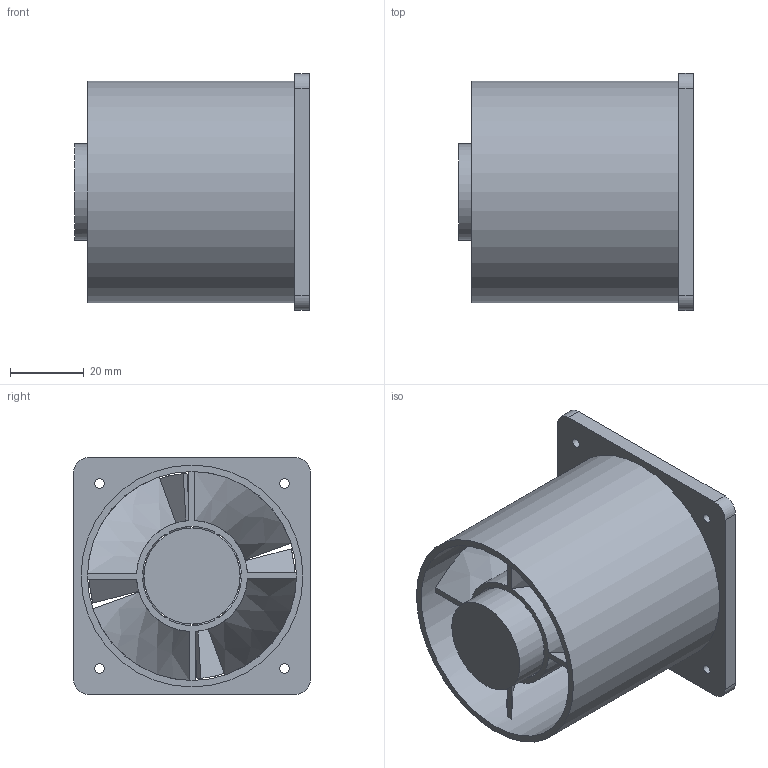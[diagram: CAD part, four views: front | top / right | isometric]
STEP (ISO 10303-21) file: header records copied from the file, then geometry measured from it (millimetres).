
FILE_DESCRIPTION(/* description */ (''),/* implementation_level */ '2;1');
FILE_NAME(/* name */ 'Fan D604P-024KM-4.stp',/* time_stamp */ '2022-10-04T11:24:16+02:00',/* author */ (''),/* organization */ (''),/* preprocessor_version */ 'ST-DEVELOPER v16.7',/* originating_system */ 'SIEMENS PLM Software NX 1946',/* authorisation */ '');
FILE_SCHEMA (('AUTOMOTIVE_DESIGN { 1 0 10303 214 3 1 1 1 }'));
Length unit declared in the file: millimetre
Products named in the file (1): 019765_1- __
Bounding box: 63.5 x 64 x 64 mm (x, y, z)
Volume: 63101.9 mm3; surface area: 47255.3 mm2
Topology: 1 solids, 1 shells, 161 faces, 442 edges, 282 vertices
Faces by surface type: cylinder 77, plane 76, bspline 8
Full cylindrical faces by diameter (mm): 2.5 x4, 4 x2, 5.5 x2, 26 x1, 56.5 x1, 60 x1
Entity records: 5432 total; most frequent: CARTESIAN_POINT 1182, DIRECTION 962, ORIENTED_EDGE 852, EDGE_CURVE 426, AXIS2_PLACEMENT_3D 398, VERTEX_POINT 278, EDGE_LOOP 200, LINE 166
